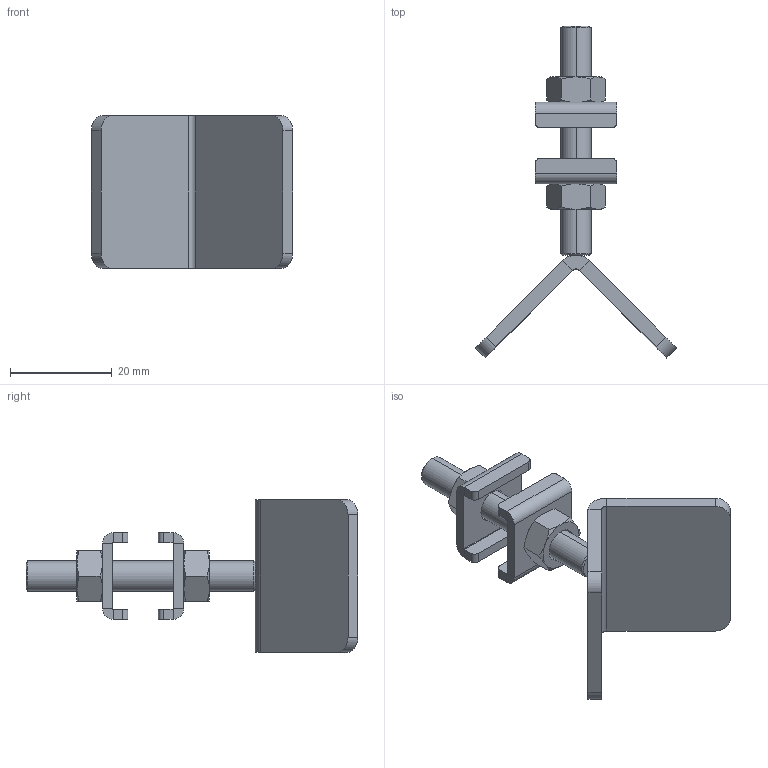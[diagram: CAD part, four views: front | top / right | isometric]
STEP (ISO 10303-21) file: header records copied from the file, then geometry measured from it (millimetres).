
FILE_DESCRIPTION (( 'STEP AP203' ), '1' );
FILE_NAME ('PCA-M6.STEP', '2011-05-23T19:51:04', ( 'Usuario' ), ( '' ), 'SwSTEP 2.0', 'SolidWorks 2011', '' );
FILE_SCHEMA (( 'CONFIG_CONTROL_DESIGN' ));
Length unit declared in the file: millimetre
Products named in the file (5): PCA-M6; 20.20017; 11.50001; 14.10004; 20.20016
Assembly tree (6 placements, depth 2):
  PCA-M6
    11.50001  x2
    14.10004  x2
    20.20016
    20.20017
Bounding box: 39.6 x 65.19 x 30 mm (x, y, z)
Volume: 7484.3 mm3; surface area: 6843.1 mm2
Topology: 6 solids, 6 shells, 134 faces, 290 edges, 168 vertices
Faces by surface type: plane 66, cone 36, cylinder 32
Entity records: 2791 total; most frequent: CARTESIAN_POINT 481, DIRECTION 386, ORIENTED_EDGE 344, EDGE_CURVE 172, AXIS2_PLACEMENT_3D 149, VERTEX_POINT 100, LINE 88, VECTOR 88
